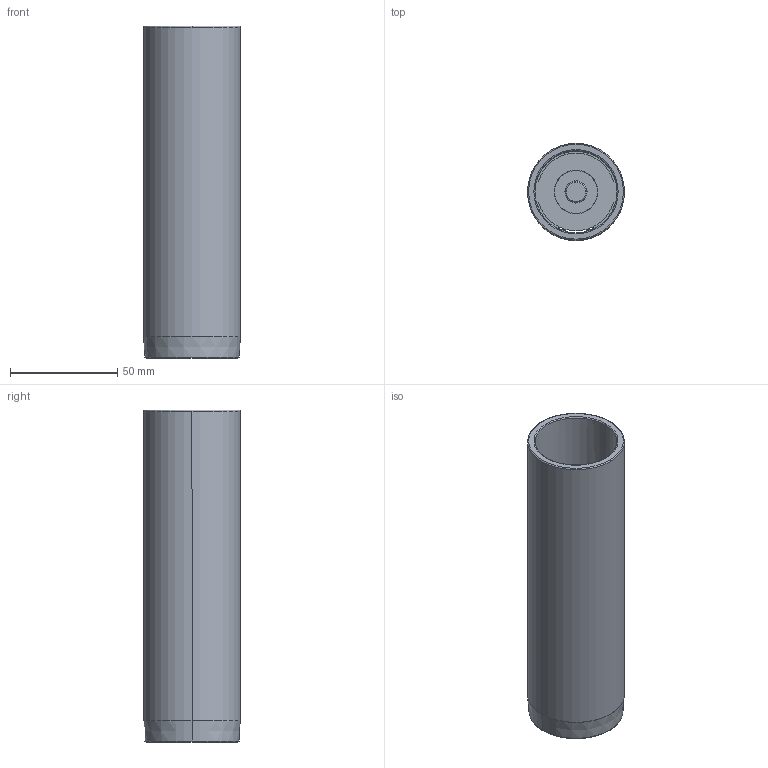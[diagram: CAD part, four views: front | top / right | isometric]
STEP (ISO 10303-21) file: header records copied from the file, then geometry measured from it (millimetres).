
FILE_DESCRIPTION((''),'2;1');
FILE_NAME('C12_038_155.stp','2009-01-28T11:31:29',(''),(''),'Mechanical Desktop 2009','Mechanical Desktop 2009',', , ');
FILE_SCHEMA(('CONFIG_CONTROL_DESIGN'));
Length unit declared in the file: millimetre
Products named in the file (2): Product; blmdl1
Assembly tree (1 placements, depth 2):
  Product
    blmdl1
Bounding box: 45.25 x 45.25 x 155 mm (x, y, z)
Volume: 73602.7 mm3; surface area: 47783 mm2
Topology: 5 solids, 5 shells, 79 faces, 200 edges, 134 vertices
Faces by surface type: cylinder 34, plane 29, torus 10, cone 6
Entity records: 2585 total; most frequent: DIRECTION 480, CARTESIAN_POINT 435, ORIENTED_EDGE 400, AXIS2_PLACEMENT_3D 203, EDGE_CURVE 200, VERTEX_POINT 134, CIRCLE 122, EDGE_LOOP 92
